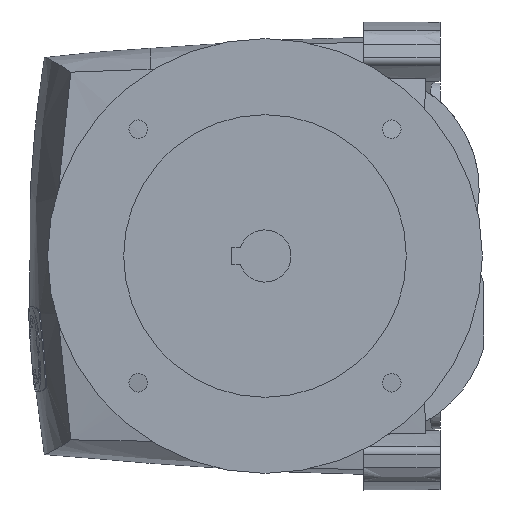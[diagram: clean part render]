
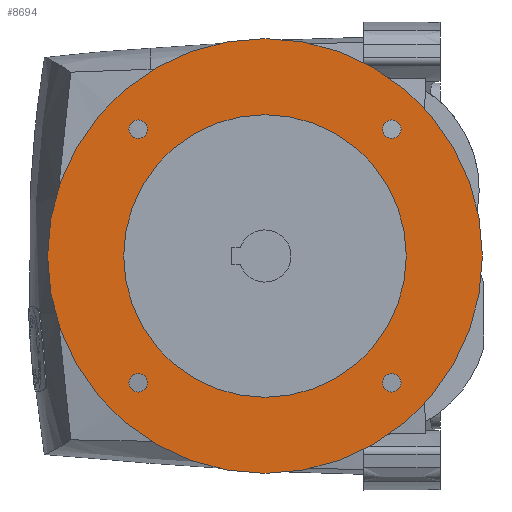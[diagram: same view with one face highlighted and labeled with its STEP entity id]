
A CAD part, left-side view. The second image highlights one B-rep face of the part: STEP entity #8694.
In plain terms, the highlighted planar face has unit normal (-1, 0, 0).
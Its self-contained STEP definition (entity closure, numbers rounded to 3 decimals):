
#838=CARTESIAN_POINT('',(-146.5,43.164,-58.336));
#839=DIRECTION('',(1.,0.,0.));
#840=DIRECTION('',(0.,-1.,0.));
#841=AXIS2_PLACEMENT_3D('',#838,#839,#840);
#843=CARTESIAN_POINT('',(-146.5,43.164,-58.336));
#844=DIRECTION('',(1.,0.,0.));
#845=DIRECTION('',(0.,1.,0.));
#846=AXIS2_PLACEMENT_3D('',#843,#844,#845);
#848=CARTESIAN_POINT('',(-146.5,43.164,58.336));
#849=DIRECTION('',(1.,0.,0.));
#850=DIRECTION('',(0.,-1.,0.));
#851=AXIS2_PLACEMENT_3D('',#848,#849,#850);
#853=CARTESIAN_POINT('',(-146.5,43.164,58.336));
#854=DIRECTION('',(1.,0.,0.));
#855=DIRECTION('',(0.,1.,0.));
#856=AXIS2_PLACEMENT_3D('',#853,#854,#855);
#858=CARTESIAN_POINT('',(-146.5,159.836,58.336));
#859=DIRECTION('',(1.,0.,0.));
#860=DIRECTION('',(0.,-1.,0.));
#861=AXIS2_PLACEMENT_3D('',#858,#859,#860);
#863=CARTESIAN_POINT('',(-146.5,159.836,58.336));
#864=DIRECTION('',(1.,0.,0.));
#865=DIRECTION('',(0.,1.,0.));
#866=AXIS2_PLACEMENT_3D('',#863,#864,#865);
#868=CARTESIAN_POINT('',(-146.5,159.836,-58.336));
#869=DIRECTION('',(1.,0.,0.));
#870=DIRECTION('',(0.,-1.,0.));
#871=AXIS2_PLACEMENT_3D('',#868,#869,#870);
#873=CARTESIAN_POINT('',(-146.5,159.836,-58.336));
#874=DIRECTION('',(1.,0.,0.));
#875=DIRECTION('',(0.,1.,0.));
#876=AXIS2_PLACEMENT_3D('',#873,#874,#875);
#878=CARTESIAN_POINT('',(-146.5,101.5,0.));
#879=DIRECTION('',(-1.,0.,0.));
#880=DIRECTION('',(0.,0.,-1.));
#881=AXIS2_PLACEMENT_3D('',#878,#879,#880);
#883=CARTESIAN_POINT('',(-146.5,101.5,0.));
#884=DIRECTION('',(-1.,0.,0.));
#885=DIRECTION('',(0.,0.,1.));
#886=AXIS2_PLACEMENT_3D('',#883,#884,#885);
#888=CARTESIAN_POINT('',(-146.5,101.5,0.));
#889=DIRECTION('',(1.,0.,0.));
#890=DIRECTION('',(0.,0.,-1.));
#891=AXIS2_PLACEMENT_3D('',#888,#889,#890);
#893=CARTESIAN_POINT('',(-146.5,101.5,0.));
#894=DIRECTION('',(1.,0.,0.));
#895=DIRECTION('',(0.,0.,1.));
#896=AXIS2_PLACEMENT_3D('',#893,#894,#895);
#6904=CARTESIAN_POINT('',(-146.5,101.5,-99.986));
#6905=CARTESIAN_POINT('',(-146.5,101.5,99.986));
#6906=VERTEX_POINT('',#6904);
#6907=VERTEX_POINT('',#6905);
#6908=CARTESIAN_POINT('',(-146.5,101.5,-65.));
#6909=CARTESIAN_POINT('',(-146.5,101.5,65.));
#6910=VERTEX_POINT('',#6908);
#6911=VERTEX_POINT('',#6909);
#7258=CARTESIAN_POINT('',(-146.5,155.586,58.336));
#7259=CARTESIAN_POINT('',(-146.5,164.086,58.336));
#7260=VERTEX_POINT('',#7258);
#7261=VERTEX_POINT('',#7259);
#7262=CARTESIAN_POINT('',(-146.5,38.914,58.336));
#7263=CARTESIAN_POINT('',(-146.5,47.414,58.336));
#7264=VERTEX_POINT('',#7262);
#7265=VERTEX_POINT('',#7263);
#7266=CARTESIAN_POINT('',(-146.5,155.586,-58.336));
#7267=CARTESIAN_POINT('',(-146.5,164.086,-58.336));
#7268=VERTEX_POINT('',#7266);
#7269=VERTEX_POINT('',#7267);
#7270=CARTESIAN_POINT('',(-146.5,38.914,-58.336));
#7271=CARTESIAN_POINT('',(-146.5,47.414,-58.336));
#7272=VERTEX_POINT('',#7270);
#7273=VERTEX_POINT('',#7271);
#8654=CARTESIAN_POINT('',(-146.5,101.5,0.));
#8655=DIRECTION('',(1.,0.,0.));
#8656=DIRECTION('',(0.,0.,-1.));
#8657=AXIS2_PLACEMENT_3D('',#8654,#8655,#8656);
#8658=PLANE('',#8657);
#8660=ORIENTED_EDGE('',*,*,#8659,.F.);
#8662=ORIENTED_EDGE('',*,*,#8661,.F.);
#8663=EDGE_LOOP('',(#8660,#8662));
#8664=FACE_OUTER_BOUND('',#8663,.F.);
#8665=ORIENTED_EDGE('',*,*,#8644,.F.);
#8667=ORIENTED_EDGE('',*,*,#8666,.F.);
#8668=EDGE_LOOP('',(#8665,#8667));
#8669=FACE_BOUND('',#8668,.F.);
#8671=ORIENTED_EDGE('',*,*,#8670,.F.);
#8673=ORIENTED_EDGE('',*,*,#8672,.F.);
#8674=EDGE_LOOP('',(#8671,#8673));
#8675=FACE_BOUND('',#8674,.F.);
#8677=ORIENTED_EDGE('',*,*,#8676,.F.);
#8679=ORIENTED_EDGE('',*,*,#8678,.F.);
#8680=EDGE_LOOP('',(#8677,#8679));
#8681=FACE_BOUND('',#8680,.F.);
#8683=ORIENTED_EDGE('',*,*,#8682,.F.);
#8685=ORIENTED_EDGE('',*,*,#8684,.F.);
#8686=EDGE_LOOP('',(#8683,#8685));
#8687=FACE_BOUND('',#8686,.F.);
#8689=ORIENTED_EDGE('',*,*,#8688,.F.);
#8691=ORIENTED_EDGE('',*,*,#8690,.F.);
#8692=EDGE_LOOP('',(#8689,#8691));
#8693=FACE_BOUND('',#8692,.F.);
#8694=ADVANCED_FACE('',(#8664,#8669,#8675,#8681,#8687,#8693),#8658,.F.);
#842=CIRCLE('',#841,4.25);
#847=CIRCLE('',#846,4.25);
#852=CIRCLE('',#851,4.25);
#857=CIRCLE('',#856,4.25);
#862=CIRCLE('',#861,4.25);
#867=CIRCLE('',#866,4.25);
#872=CIRCLE('',#871,4.25);
#877=CIRCLE('',#876,4.25);
#882=CIRCLE('',#881,99.986);
#887=CIRCLE('',#886,99.986);
#892=CIRCLE('',#891,65.);
#897=CIRCLE('',#896,65.);
#8644=EDGE_CURVE('',#7272,#7273,#842,.T.);
#8659=EDGE_CURVE('',#6906,#6907,#882,.T.);
#8661=EDGE_CURVE('',#6907,#6906,#887,.T.);
#8666=EDGE_CURVE('',#7273,#7272,#847,.T.);
#8670=EDGE_CURVE('',#7264,#7265,#852,.T.);
#8672=EDGE_CURVE('',#7265,#7264,#857,.T.);
#8676=EDGE_CURVE('',#7260,#7261,#862,.T.);
#8678=EDGE_CURVE('',#7261,#7260,#867,.T.);
#8682=EDGE_CURVE('',#7268,#7269,#872,.T.);
#8684=EDGE_CURVE('',#7269,#7268,#877,.T.);
#8688=EDGE_CURVE('',#6910,#6911,#892,.T.);
#8690=EDGE_CURVE('',#6911,#6910,#897,.T.);
